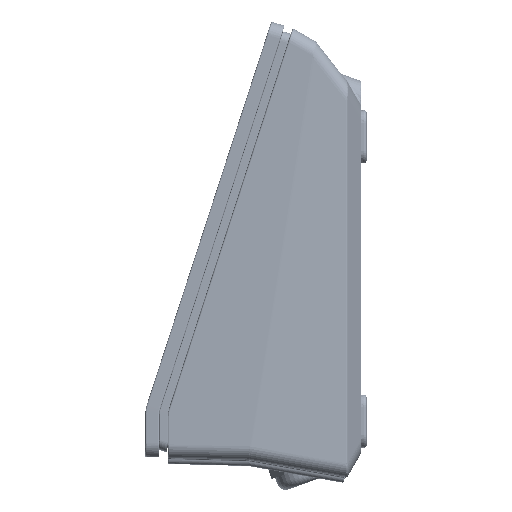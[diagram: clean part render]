
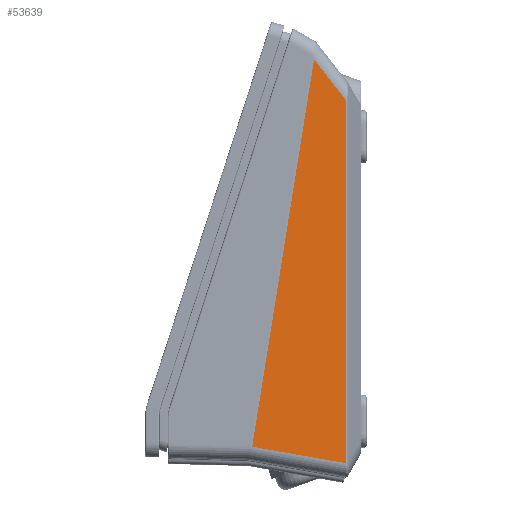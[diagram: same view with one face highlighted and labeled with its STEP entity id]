
A CAD part, left-side view. The second image highlights one B-rep face of the part: STEP entity #53639.
In plain terms, the highlighted planar face has unit normal (-0.985, -0.172, -0.027).
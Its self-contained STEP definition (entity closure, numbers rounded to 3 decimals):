
#763=DIRECTION('',(-0.028,0.,1.));
#764=VECTOR('',#763,129.626);
#765=CARTESIAN_POINT('',(-117.461,5.461,-61.848));
#766=LINE('',#765,#764);
#767=CARTESIAN_POINT('',(-117.461,5.461,-61.848));
#768=CARTESIAN_POINT('',(-117.46,5.461,-61.861));
#769=CARTESIAN_POINT('',(-117.46,5.461,-61.888));
#770=CARTESIAN_POINT('',(-117.459,5.461,-61.914));
#771=CARTESIAN_POINT('',(-117.458,5.461,-61.928));
#773=DIRECTION('',(0.174,-0.97,-0.171));
#774=VECTOR('',#773,33.758);
#775=CARTESIAN_POINT('',(-123.32,38.201,-56.155));
#776=LINE('',#775,#774);
#777=CARTESIAN_POINT('',(-123.436,38.854,-56.076));
#778=CARTESIAN_POINT('',(-123.416,38.744,-56.083));
#779=CARTESIAN_POINT('',(-123.378,38.526,-56.104));
#780=CARTESIAN_POINT('',(-123.339,38.309,-56.136));
#781=CARTESIAN_POINT('',(-123.32,38.201,-56.155));
#783=DIRECTION('',(0.,0.158,-0.987));
#784=VECTOR('',#783,140.002);
#785=CARTESIAN_POINT('',(-123.436,16.743,82.168));
#786=LINE('',#785,#784);
#787=DIRECTION('',(0.128,-0.611,-0.782));
#788=VECTOR('',#787,18.477);
#789=CARTESIAN_POINT('',(-123.436,16.743,82.168));
#790=LINE('',#789,#788);
#7701=CARTESIAN_POINT('',(-121.069,5.461,67.728));
#46962=VERTEX_POINT('',#7701);
#46964=CARTESIAN_POINT('',(-117.461,5.461,
-61.848));
#46965=VERTEX_POINT('',#46964);
#46968=VERTEX_POINT('',#771);
#46980=CARTESIAN_POINT('',(-123.436,16.743,
82.168));
#46981=VERTEX_POINT('',#46980);
#48142=VERTEX_POINT('',#777);
#48143=VERTEX_POINT('',#781);
#53620=CARTESIAN_POINT('',(-123.5,15.56,91.876));
#53621=DIRECTION('',(0.985,0.171,0.027));
#53622=DIRECTION('',(0.,0.158,-0.987));
#53623=AXIS2_PLACEMENT_3D('',#53620,#53621,#53622);
#53624=PLANE('',#53623);
#53626=ORIENTED_EDGE('',*,*,#53625,.F.);
#53628=ORIENTED_EDGE('',*,*,#53627,.T.);
#53630=ORIENTED_EDGE('',*,*,#53629,.F.);
#53632=ORIENTED_EDGE('',*,*,#53631,.F.);
#53634=ORIENTED_EDGE('',*,*,#53633,.F.);
#53636=ORIENTED_EDGE('',*,*,#53635,.T.);
#53637=EDGE_LOOP('',(#53626,#53628,#53630,#53632,#53634,#53636));
#53638=FACE_OUTER_BOUND('',#53637,.F.);
#53639=ADVANCED_FACE('',(#53638),#53624,.F.);
#772=B_SPLINE_CURVE_WITH_KNOTS('',3,(#767,#768,#769,#770,#771),.UNSPECIFIED.,
.F.,.F.,(4,1,4),(0.,0.5,1.),.UNSPECIFIED.);
#782=B_SPLINE_CURVE_WITH_KNOTS('',3,(#777,#778,#779,#780,#781),.UNSPECIFIED.,
.F.,.F.,(4,1,4),(0.,0.5,1.),.UNSPECIFIED.);
#53625=EDGE_CURVE('',#46965,#46962,#766,.T.);
#53627=EDGE_CURVE('',#46965,#46968,#772,.T.);
#53629=EDGE_CURVE('',#48143,#46968,#776,.T.);
#53631=EDGE_CURVE('',#48142,#48143,#782,.T.);
#53633=EDGE_CURVE('',#46981,#48142,#786,.T.);
#53635=EDGE_CURVE('',#46981,#46962,#790,.T.);
